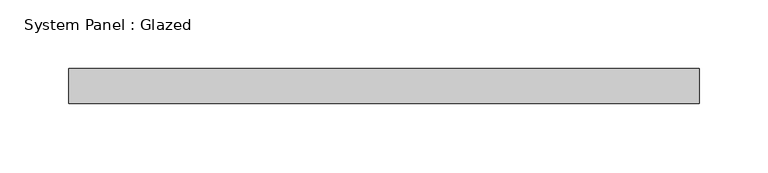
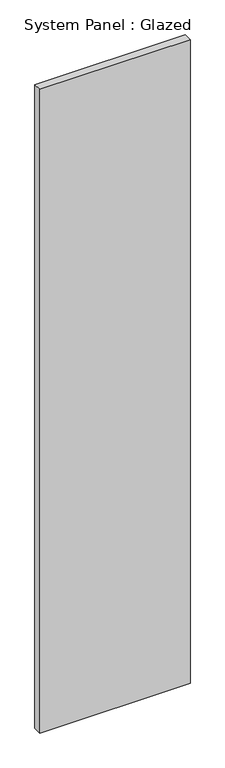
"""IFC4 building model written with IfcOpenShell, lengths in millimetres: plate geometry, System Panel : Glazed."""

from ifc_helpers import new_model, si_unit, origin, origin_with_axes, place, context, project, spatial, polyline, outline, extrude, source, transform, mapped, element, save


def system_panel_glazed_0e039939(model_context):
    return source(origin(), model_context, "Body", "SweptSolid", [
        extrude(outline(polyline([(228.5999998, 19.05), (-228.5999998, 19.05), (-228.5999998, 44.45), (228.5999998, 44.45), (228.5999998, 19.05)])), origin_with_axes(), (0.0, 0.0, 1.0), 2070.1),
    ])


if __name__ == "__main__":
    model = new_model("IFC4")
    model_context = context("Model", 3, world=origin())
    ifc_project = project(units=[si_unit("LENGTHUNIT", "METRE", prefix="MILLI")], contexts=[model_context])
    site = spatial("IfcSite", under=ifc_project)
    building = spatial("IfcBuilding", under=site)
    placement = place(None, origin())
    system_panel_glazed_shape = system_panel_glazed_0e039939(model_context)
    element("IfcPlate", 1, ObjectType="System Panel : Glazed", at=placement, inside=building, context=model_context, shape_type="MappedRepresentation", body=[
        mapped(system_panel_glazed_shape, transform((0.0, 0.0, 0.0), x_axis=(1.0, 0.0, 0.0), y_axis=(0.0, 1.0, 0.0), z_axis=(0.0, 0.0, 1.0))),
    ])
    save(model, "model.ifc")
